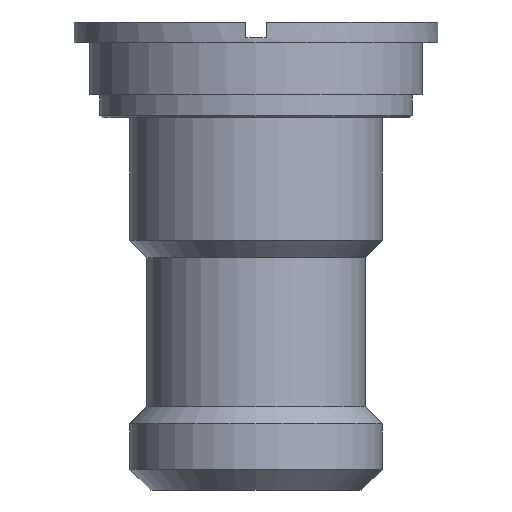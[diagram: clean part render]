
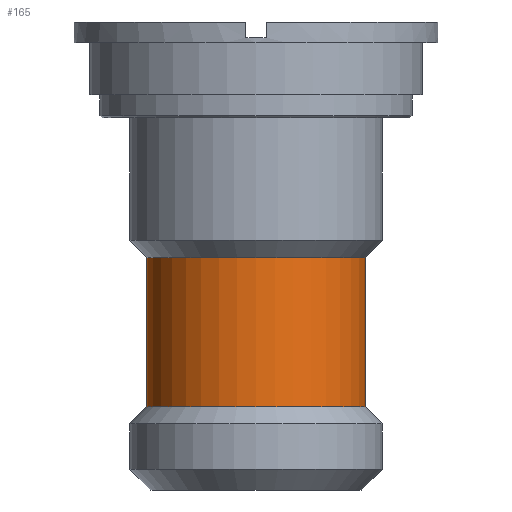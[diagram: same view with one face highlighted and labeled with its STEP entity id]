
A CAD part, left-side view. The second image highlights one B-rep face of the part: STEP entity #165.
In plain terms, the highlighted cylindrical face has radius 10.5 mm (diameter 21 mm), a partial arc.
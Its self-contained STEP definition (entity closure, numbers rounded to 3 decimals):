
#67=CYLINDRICAL_SURFACE('',#1530,10.5);
#165=ADVANCED_FACE('',(#226),#67,.T.);
#226=FACE_OUTER_BOUND('',#289,.F.);
#289=EDGE_LOOP('',(#471,#472,#473,#474));
#471=ORIENTED_EDGE('',*,*,#1236,.F.);
#472=ORIENTED_EDGE('',*,*,#1252,.F.);
#473=ORIENTED_EDGE('',*,*,#1237,.T.);
#474=ORIENTED_EDGE('',*,*,#1251,.T.);
#1054=LINE('',#2156,#1116);
#1055=LINE('',#2157,#1117);
#1116=VECTOR('',#1703,14.35);
#1117=VECTOR('',#1704,14.35);
#1236=EDGE_CURVE('',#1371,#1373,#1054,.T.);
#1237=EDGE_CURVE('',#1370,#1372,#1055,.T.);
#1251=EDGE_CURVE('',#1372,#1373,#1335,.T.);
#1252=EDGE_CURVE('',#1370,#1371,#1336,.T.);
#1335=CIRCLE('',#1491,10.5);
#1336=CIRCLE('',#1492,10.5);
#1370=VERTEX_POINT('',#1916);
#1371=VERTEX_POINT('',#1917);
#1372=VERTEX_POINT('',#1918);
#1373=VERTEX_POINT('',#1919);
#1491=AXIS2_PLACEMENT_3D('',#2171,#1719,#1720);
#1492=AXIS2_PLACEMENT_3D('',#2172,#1721,#1722);
#1530=AXIS2_PLACEMENT_3D('',#2222,#1809,#1810);
#1703=DIRECTION('',(0.,0.,-1.));
#1704=DIRECTION('',(0.,0.,-1.));
#1719=DIRECTION('',(0.,0.,-1.));
#1720=DIRECTION('',(0.,-1.,0.));
#1721=DIRECTION('',(0.,0.,-1.));
#1722=DIRECTION('',(0.,-1.,0.));
#1809=DIRECTION('',(0.,0.,-1.));
#1810=DIRECTION('',(0.,-1.,0.));
#1916=CARTESIAN_POINT('',(269.375,408.752,-373.276));
#1917=CARTESIAN_POINT('',(269.375,429.752,-373.276));
#1918=CARTESIAN_POINT('',(269.375,408.752,-387.626));
#1919=CARTESIAN_POINT('',(269.375,429.752,-387.626));
#2156=CARTESIAN_POINT('',(269.375,429.752,-373.276));
#2157=CARTESIAN_POINT('',(269.375,408.752,-373.276));
#2171=CARTESIAN_POINT('',(269.375,419.252,-387.626));
#2172=CARTESIAN_POINT('',(269.375,419.252,-373.276));
#2222=CARTESIAN_POINT('',(269.375,419.252,-373.276));
